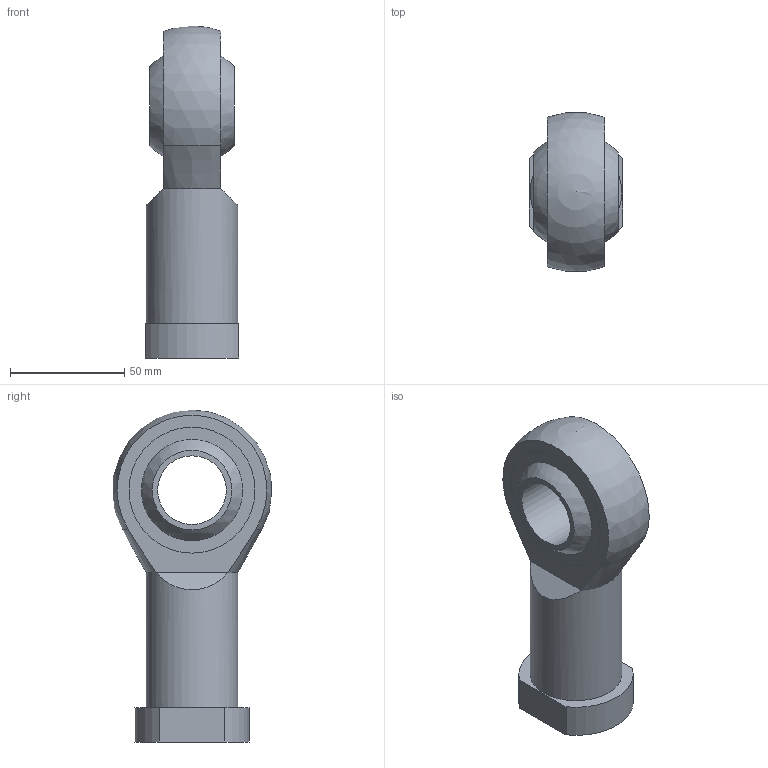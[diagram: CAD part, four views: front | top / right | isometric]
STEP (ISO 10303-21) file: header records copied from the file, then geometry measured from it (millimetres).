
FILE_DESCRIPTION(/* description */ (''),/* implementation_level */ '2;1');
FILE_NAME(/* name */ 'LAOAA-M27x2.step',/* time_stamp */ '2025-01-20T14:30:30+01:00',/* author */ ('octogon GmbH'),/* organization */ ('octogon GmbH'),/* preprocessor_version */ 'ST-DEVELOPER v16.13',/* originating_system */ 'Autodesk Inventor LT',/* authorisation */ '');
FILE_SCHEMA (('AUTOMOTIVE_DESIGN { 1 0 10303 214 3 1 1 }'));
Length unit declared in the file: millimetre
Products named in the file (1): LAOAA-M27x2 rod end, stainless steel, female thread M27x2
Bounding box: 41 x 69.41 x 145 mm (x, y, z)
Volume: 155565.4 mm3; surface area: 31616.2 mm2
Topology: 1 solids, 1 shells, 24 faces, 48 edges, 32 vertices
Faces by surface type: plane 12, cylinder 5, cone 4, sphere 3
Full cylindrical faces by diameter (mm): 24.835 x1, 30 x1, 40 x1
Entity records: 625 total; most frequent: DIRECTION 108, CARTESIAN_POINT 99, ORIENTED_EDGE 76, AXIS2_PLACEMENT_3D 49, EDGE_LOOP 38, EDGE_CURVE 38, VERTEX_POINT 28, FACE_OUTER_BOUND 24
